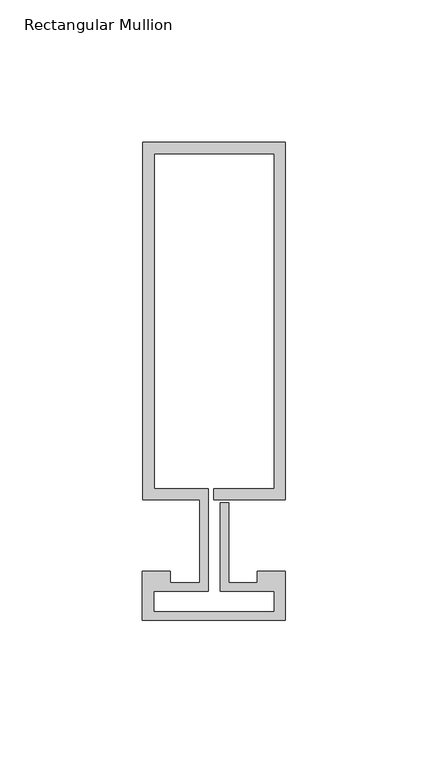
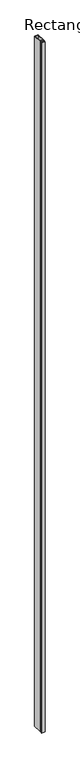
"""IFC4 building model written with IfcOpenShell, lengths in millimetres: member geometry, Rectangular Mullion : Reynaers_CW-50_Mullion-Transom_Vertical_125.5mm_Facecap-02B."""

from ifc_helpers import new_model, si_unit, frame, origin, place, context, project, spatial, polyline, outline, extrude, source, transform, mapped, element, save


def rectangular_mullion_fb735a9d(model_context):
    return source(origin(), model_context, "Body", "SweptSolid", [
        extrude(outline(polyline([(-24.8004059, 138.0), (25.1995941, 138.0), (25.1995941, 12.5), (0.0, 12.5), (0.0, 16.5), (21.1995941, 16.5), (21.1995941, 134.0), (-20.8004059, 134.0), (-20.8004059, 16.5), (-1.9004059, 16.5), (-1.9004059, -19.5), (-20.994845, -19.5), (-20.994845, -26.7191338), (21.1995941, -26.7191338), (21.1995941, -19.5), (2.2995941, -19.5), (2.2995941, 11.5), (5.2995941, 11.5), (5.2995941, -16.5), (15.2996495, -16.5), (15.2996495, -12.5), (25.1995941, -12.5), (25.1995941, -29.8), (-24.994845, -29.8), (-24.994845, -12.5), (-15.2996495, -12.5), (-15.2996495, -16.5), (-4.9004059, -16.5), (-4.9004059, 12.5), (-24.8004059, 12.5), (-24.8004059, 138.0)])), frame((0.0, 0.0, -10400.0), z_axis=(0.0, 0.0, 1.0), x_axis=(1.0, 0.0, 0.0)), (0.0, 0.0, 1.0), 10400.0),
    ])


if __name__ == "__main__":
    model = new_model("IFC4")
    model_context = context("Model", 3, world=origin())
    ifc_project = project(units=[si_unit("LENGTHUNIT", "METRE", prefix="MILLI")], contexts=[model_context])
    site = spatial("IfcSite", under=ifc_project)
    building = spatial("IfcBuilding", under=site)
    placement = place(None, origin())
    rectangular_mullion_shape = rectangular_mullion_fb735a9d(model_context)
    element("IfcMember", 1, ObjectType="Rectangular Mullion : Reynaers_CW-50_Mullion-Transom_Vertical_125.5mm_Facecap-02B", at=placement, inside=building, context=model_context, shape_type="MappedRepresentation", body=[
        mapped(rectangular_mullion_shape, transform((0.0, 0.0, 0.0), x_axis=(1.0, 0.0, 0.0), y_axis=(0.0, 1.0, 0.0), z_axis=(0.0, 0.0, 1.0))),
    ])
    save(model, "model.ifc")
